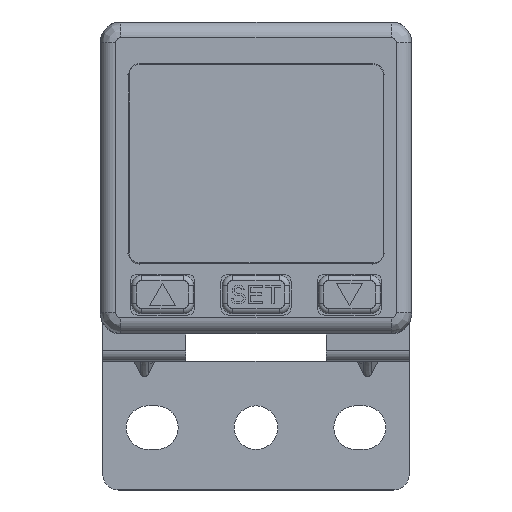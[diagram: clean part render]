
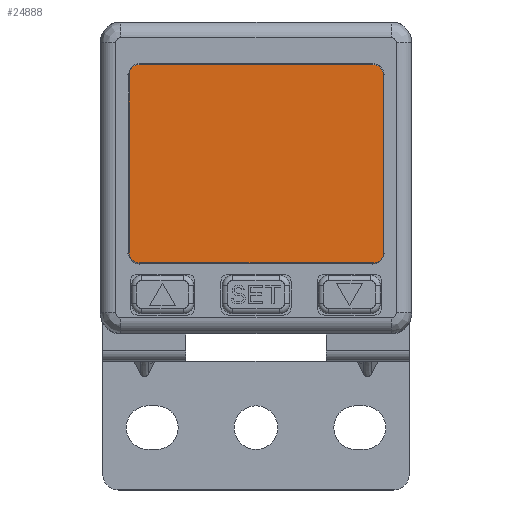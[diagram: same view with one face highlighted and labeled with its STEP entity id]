
A CAD part, top view. The second image highlights one B-rep face of the part: STEP entity #24888.
In plain terms, the highlighted planar face has unit normal (0, 0, 1).
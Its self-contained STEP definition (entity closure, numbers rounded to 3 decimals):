
#3742=CARTESIAN_POINT('',(11.25,10.992,24.97));
#3743=CARTESIAN_POINT('',(11.458,10.992,24.97));
#3744=CARTESIAN_POINT('',(11.812,10.883,24.97));
#3745=CARTESIAN_POINT('',(12.085,10.634,24.97));
#3746=CARTESIAN_POINT('',(12.191,10.454,24.97));
#3748=CARTESIAN_POINT('',(11.3,10.,24.97));
#3749=DIRECTION('',(0.,0.,1.));
#3750=DIRECTION('',(1.,0.,0.));
#3751=AXIS2_PLACEMENT_3D('',#3748,#3749,#3750);
#3753=DIRECTION('',(0.,1.,0.));
#3754=VECTOR('',#3753,17.2);
#3755=CARTESIAN_POINT('',(12.3,-7.2,24.97));
#3756=LINE('',#3755,#3754);
#3757=CARTESIAN_POINT('',(11.3,-7.2,24.97));
#3758=DIRECTION('',(0.,0.,1.));
#3759=DIRECTION('',(0.,-1.,0.));
#3760=AXIS2_PLACEMENT_3D('',#3757,#3758,#3759);
#3762=DIRECTION('',(1.,0.,0.));
#3763=VECTOR('',#3762,22.5);
#3764=CARTESIAN_POINT('',(-11.2,-8.2,24.97));
#3765=LINE('',#3764,#3763);
#3766=CARTESIAN_POINT('',(-11.2,-7.2,24.97));
#3767=DIRECTION('',(0.,0.,1.));
#3768=DIRECTION('',(-1.,0.,0.));
#3769=AXIS2_PLACEMENT_3D('',#3766,#3767,#3768);
#3771=DIRECTION('',(0.,-1.,0.));
#3772=VECTOR('',#3771,17.2);
#3773=CARTESIAN_POINT('',(-12.2,10.,24.97));
#3774=LINE('',#3773,#3772);
#3775=CARTESIAN_POINT('',(-11.2,10.,24.97));
#3776=DIRECTION('',(0.,0.,1.));
#3777=DIRECTION('',(-0.171,0.985,0.));
#3778=AXIS2_PLACEMENT_3D('',#3775,#3776,#3777);
#3780=CARTESIAN_POINT('',(-11.371,10.985,24.97));
#3781=CARTESIAN_POINT('',(-11.331,10.99,24.97));
#3782=CARTESIAN_POINT('',(-11.29,10.992,24.97));
#3783=CARTESIAN_POINT('',(-11.25,10.992,24.97));
#3785=DIRECTION('',(-1.,0.,0.));
#3786=VECTOR('',#3785,22.5);
#3787=CARTESIAN_POINT('',(11.25,10.992,24.97));
#3788=LINE('',#3787,#3786);
#16150=CARTESIAN_POINT('',(-12.2,10.,24.97));
#16151=CARTESIAN_POINT('',(-12.2,-7.2,24.97));
#16152=VERTEX_POINT('',#16150);
#16153=VERTEX_POINT('',#16151);
#16154=CARTESIAN_POINT('',(-11.2,-8.2,24.97));
#16155=VERTEX_POINT('',#16154);
#16156=CARTESIAN_POINT('',(11.3,-8.2,24.97));
#16157=VERTEX_POINT('',#16156);
#16158=CARTESIAN_POINT('',(12.3,-7.2,24.97));
#16159=VERTEX_POINT('',#16158);
#16160=CARTESIAN_POINT('',(12.3,10.,24.97));
#16161=VERTEX_POINT('',#16160);
#17398=VERTEX_POINT('',#3742);
#17399=VERTEX_POINT('',#3746);
#17400=CARTESIAN_POINT('',(-11.25,10.992,24.97));
#17401=VERTEX_POINT('',#17400);
#17402=VERTEX_POINT('',#3780);
#24863=CARTESIAN_POINT('',(0.05,2.6,24.97));
#24864=DIRECTION('',(0.,0.,1.));
#24865=DIRECTION('',(1.,0.,0.));
#24866=AXIS2_PLACEMENT_3D('',#24863,#24864,#24865);
#24867=PLANE('',#24866);
#24868=ORIENTED_EDGE('',*,*,#24851,.T.);
#24869=ORIENTED_EDGE('',*,*,#24817,.F.);
#24871=ORIENTED_EDGE('',*,*,#24870,.F.);
#24873=ORIENTED_EDGE('',*,*,#24872,.F.);
#24875=ORIENTED_EDGE('',*,*,#24874,.F.);
#24877=ORIENTED_EDGE('',*,*,#24876,.F.);
#24879=ORIENTED_EDGE('',*,*,#24878,.F.);
#24881=ORIENTED_EDGE('',*,*,#24880,.F.);
#24883=ORIENTED_EDGE('',*,*,#24882,.T.);
#24885=ORIENTED_EDGE('',*,*,#24884,.F.);
#24886=EDGE_LOOP('',(#24868,#24869,#24871,#24873,#24875,#24877,#24879,#24881,
#24883,#24885));
#24887=FACE_OUTER_BOUND('',#24886,.F.);
#24888=ADVANCED_FACE('',(#24887),#24867,.T.);
#3747=B_SPLINE_CURVE_WITH_KNOTS('',3,(#3742,#3743,#3744,#3745,#3746),
.UNSPECIFIED.,.F.,.F.,(4,1,4),(0.,0.5,1.),.UNSPECIFIED.);
#3752=CIRCLE('',#3751,1.);
#3761=CIRCLE('',#3760,1.);
#3770=CIRCLE('',#3769,1.);
#3779=CIRCLE('',#3778,1.);
#3784=B_SPLINE_CURVE_WITH_KNOTS('',3,(#3780,#3781,#3782,#3783),.UNSPECIFIED.,
.F.,.F.,(4,4),(0.,1.),.UNSPECIFIED.);
#24817=EDGE_CURVE('',#16161,#17399,#3752,.T.);
#24851=EDGE_CURVE('',#17398,#17399,#3747,.T.);
#24870=EDGE_CURVE('',#16159,#16161,#3756,.T.);
#24872=EDGE_CURVE('',#16157,#16159,#3761,.T.);
#24874=EDGE_CURVE('',#16155,#16157,#3765,.T.);
#24876=EDGE_CURVE('',#16153,#16155,#3770,.T.);
#24878=EDGE_CURVE('',#16152,#16153,#3774,.T.);
#24880=EDGE_CURVE('',#17402,#16152,#3779,.T.);
#24882=EDGE_CURVE('',#17402,#17401,#3784,.T.);
#24884=EDGE_CURVE('',#17398,#17401,#3788,.T.);
